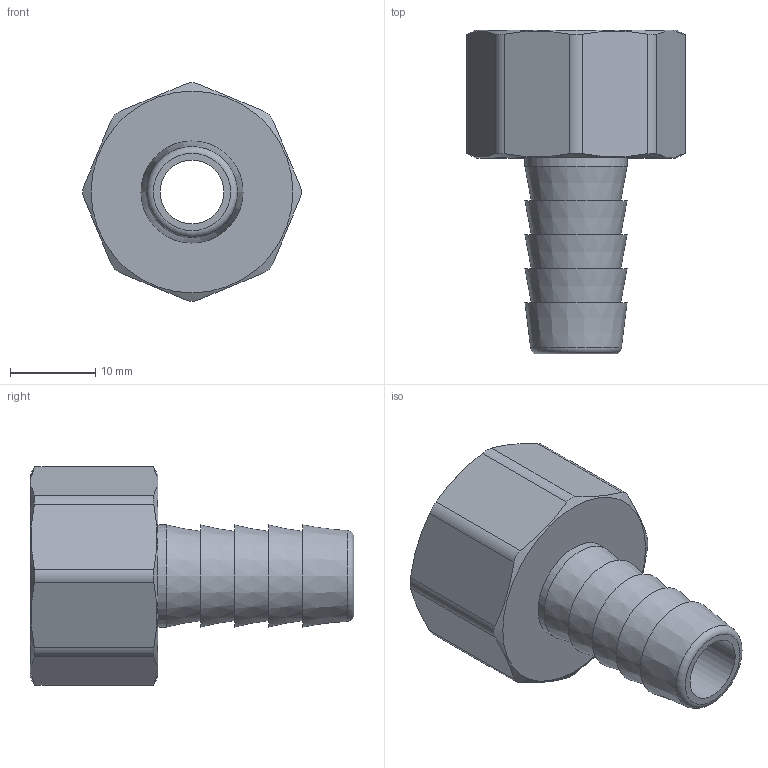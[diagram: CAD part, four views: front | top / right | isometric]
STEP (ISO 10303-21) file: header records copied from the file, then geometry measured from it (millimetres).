
FILE_DESCRIPTION(('STEP AP203'), '1');
FILE_NAME('覆.753154.012 - VTr.654.N.0412 幄鼭歑', '2024-08-02T07:34:26', ('Boss'), (''), 'C3D Converter', 'C3D Toolkit', '');
FILE_SCHEMA(('CONFIG_CONTROL_DESIGN'));
Length unit declared in the file: millimetre
Products named in the file (1): ВР.753154.012
Bounding box: 25.65 x 38 x 25.65 mm (x, y, z)
Volume: 4921.5 mm3; surface area: 4164.4 mm2
Topology: 1 solids, 1 shells, 37 faces, 84 edges, 55 vertices
Faces by surface type: plane 16, cylinder 11, cone 9, torus 1
Full cylindrical faces by diameter (mm): 7.5 x1, 12 x1, 18.632 x1
Entity records: 1995 total; most frequent: CARTESIAN_POINT 1222, ORIENTED_EDGE 142, DIRECTION 134, EDGE_CURVE 71, AXIS2_PLACEMENT_3D 59, EDGE_LOOP 58, VERTEX_POINT 55, ADVANCED_FACE 37
